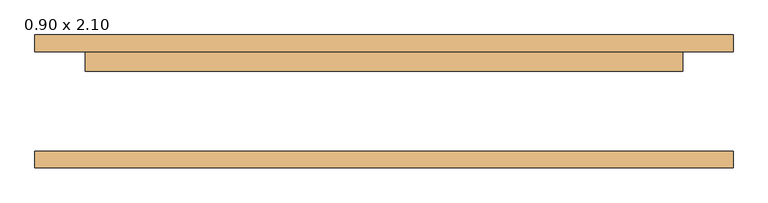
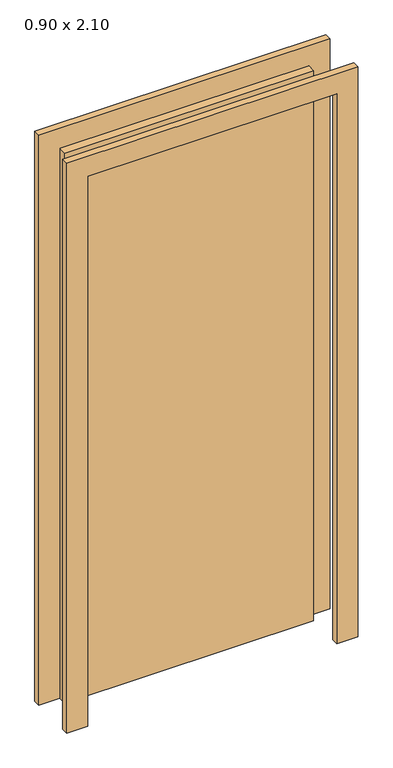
"""IFC4 building model written with IfcOpenShell, lengths in millimetres: door geometry, M_Folha única1 : 0.90 x 2.10."""

from ifc_helpers import new_model, si_unit, frame, origin, origin_with_axes, place, context, project, spatial, polyline, outline, extrude, source, transform, mapped, element, save


def door_0_90_x_2_10_7c6ad79f(model_context):
    return source(origin(), model_context, "Body", "SweptSolid", [
        extrude(outline(polyline([(2176.0, -526.0), (0.0, -526.0), (0.0, -450.0), (2100.0, -450.0), (2100.0, 450.0), (0.0, 450.0), (0.0, 526.0), (2176.0, 526.0), (2176.0, -526.0)])), frame((0.0, 75.0, 0.0), z_axis=(0.0, 1.0, 0.0), x_axis=(0.0, 0.0, 1.0)), (0.0, 0.0, 1.0), 25.0),
        extrude(outline(polyline([(2176.0, 526.0), (2176.0, -526.0), (0.0, -526.0), (0.0, -450.0), (2100.0, -450.0), (2100.0, 450.0), (0.0, 450.0), (0.0, 526.0), (2176.0, 526.0)])), frame((0.0, -100.0, 0.0), z_axis=(0.0, 1.0, 0.0), x_axis=(0.0, 0.0, 1.0)), (0.0, 0.0, 1.0), 25.0),
        extrude(outline(polyline([(450.0, 45.0), (-450.0, 45.0), (-450.0, 75.0), (450.0, 75.0), (450.0, 45.0)])), origin_with_axes(), (0.0, 0.0, 1.0), 2100.0),
    ])


if __name__ == "__main__":
    model = new_model("IFC4")
    model_context = context("Model", 3, world=origin())
    ifc_project = project(units=[si_unit("LENGTHUNIT", "METRE", prefix="MILLI")], contexts=[model_context])
    site = spatial("IfcSite", under=ifc_project)
    building = spatial("IfcBuilding", under=site)
    placement = place(None, origin())
    door_0_90_x_2_10_shape = door_0_90_x_2_10_7c6ad79f(model_context)
    element("IfcDoor", 1, ObjectType="M_Folha única1 : 0.90 x 2.10", at=placement, inside=building, context=model_context, shape_type="MappedRepresentation", body=[
        mapped(door_0_90_x_2_10_shape, transform((0.0, 0.0, 0.0), x_axis=(1.0, 0.0, 0.0), y_axis=(0.0, 1.0, 0.0), z_axis=(0.0, 0.0, 1.0))),
    ])
    save(model, "model.ifc")
